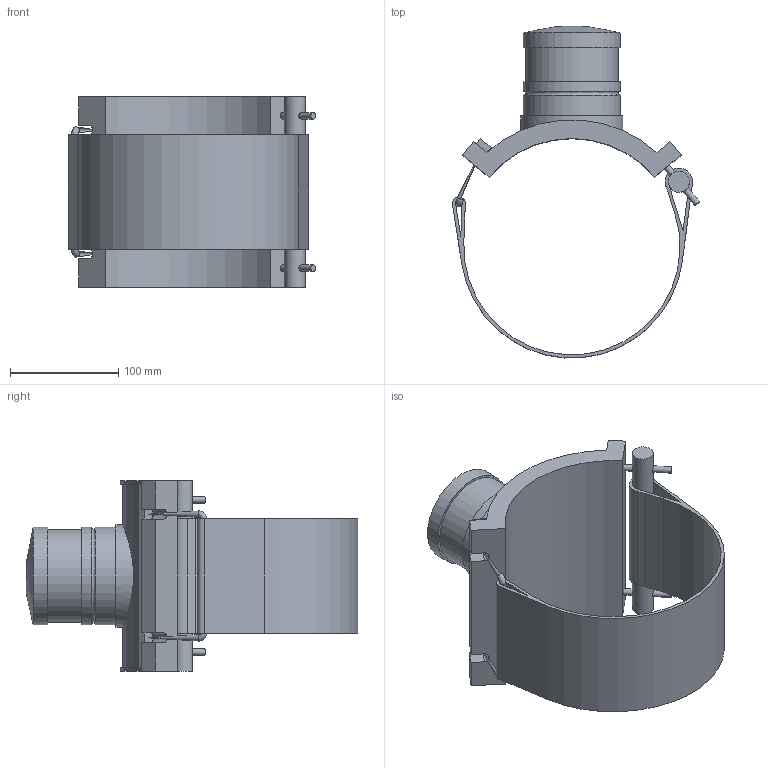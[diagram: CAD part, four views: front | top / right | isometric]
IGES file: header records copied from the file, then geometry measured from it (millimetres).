
Global section: file name: 496804200025.ipt; native system: Autodesk Inventor 2015; preprocessor: unknown; author: KIM; date: 20171106.094411; units: millimetre
Bounding box: 228.72 x 306.92 x 176 mm (x, y, z)
Volume: 1392122.3 mm3; surface area: 261396 mm2
Topology: 2 solids, 2 shells, 72 faces, 185 edges, 120 vertices
Faces by surface type: plane 43, cylinder 19, revolution 9, sphere 1
Full cylindrical faces by diameter (mm): 6 x6, 19.385 x1, 85.5 x1, 90 x3, 94.5 x1
